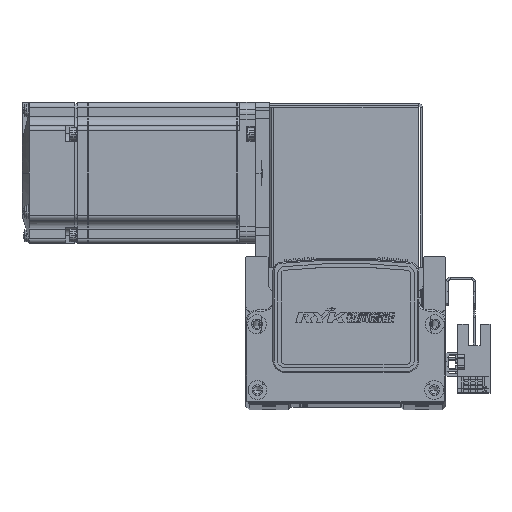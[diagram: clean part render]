
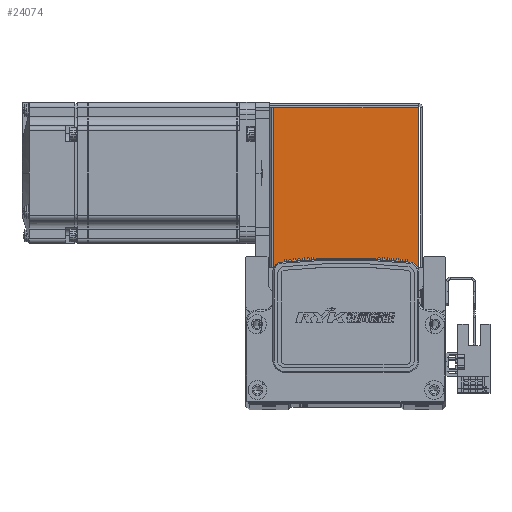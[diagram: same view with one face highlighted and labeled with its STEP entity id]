
A CAD part, top view. The second image highlights one B-rep face of the part: STEP entity #24074.
In plain terms, the highlighted planar face has unit normal (0, 0, 1).
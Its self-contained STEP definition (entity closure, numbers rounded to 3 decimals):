
#15799 = VERTEX_POINT ( 'NONE', #44155 ) ;
#15801 = VERTEX_POINT ( 'NONE', #44128 ) ;
#15818 = VERTEX_POINT ( 'NONE', #44192 ) ;
#15821 = VERTEX_POINT ( 'NONE', #44193 ) ;
#17533 = EDGE_LOOP ( 'NONE', ( #53516, #53476, #53494, #53580 ) ) ;
#24074 = ADVANCED_FACE ( 'NONE', ( #55981 ), #54563, .F. ) ;
#24723 = EDGE_CURVE ( 'NONE', #15799, #15821, #63656, .T. ) ;
#24739 = EDGE_CURVE ( 'NONE', #15818, #15801, #63660, .T. ) ;
#24755 = EDGE_CURVE ( 'NONE', #15818, #15799, #63753, .T. ) ;
#24759 = EDGE_CURVE ( 'NONE', #15801, #15821, #63796, .T. ) ;
#35550 = CARTESIAN_POINT ( 'NONE',  ( -30.793, 0., 35. ) ) ;
#35553 = DIRECTION ( 'NONE',  ( 0., 1., 0. ) ) ;
#35562 = DIRECTION ( 'NONE',  ( 0., 1., 0. ) ) ;
#35568 = CARTESIAN_POINT ( 'NONE',  ( 30.763, 0.737, 35. ) ) ;
#35730 = CARTESIAN_POINT ( 'NONE',  ( -32.5, 0.737, 35. ) ) ;
#35796 = CARTESIAN_POINT ( 'NONE',  ( 0., 68.5, 35. ) ) ;
#35834 = DIRECTION ( 'NONE',  ( -1., 0., 0. ) ) ;
#35846 = DIRECTION ( 'NONE',  ( -1., 0., 0. ) ) ;
#44128 = CARTESIAN_POINT ( 'NONE',  ( 30.763, 68.5, 35. ) ) ;
#44155 = CARTESIAN_POINT ( 'NONE',  ( -30.793, 0.737, 35. ) ) ;
#44192 = CARTESIAN_POINT ( 'NONE',  ( 30.763, 0.737, 35. ) ) ;
#44193 = CARTESIAN_POINT ( 'NONE',  ( -30.793, 68.5, 35. ) ) ;
#50301 = AXIS2_PLACEMENT_3D ( 'NONE', #54594, #54577, #54602 ) ;
#53476 = ORIENTED_EDGE ( 'NONE', *, *, #24759, .T. ) ;
#53494 = ORIENTED_EDGE ( 'NONE', *, *, #24723, .F. ) ;
#53516 = ORIENTED_EDGE ( 'NONE', *, *, #24739, .T. ) ;
#53580 = ORIENTED_EDGE ( 'NONE', *, *, #24755, .F. ) ;
#54563 = PLANE ( 'NONE',  #50301 ) ;
#54577 = DIRECTION ( 'NONE',  ( 0., 0., -1. ) ) ;
#54594 = CARTESIAN_POINT ( 'NONE',  ( 0., 0., 35. ) ) ;
#54602 = DIRECTION ( 'NONE',  ( -1., 0., 0. ) ) ;
#55981 = FACE_OUTER_BOUND ( 'NONE', #17533, .T. ) ;
#63656 = LINE ( 'NONE', #35550, #63683 ) ;
#63660 = LINE ( 'NONE', #35568, #63711 ) ;
#63683 = VECTOR ( 'NONE', #35553, 1000. ) ;
#63711 = VECTOR ( 'NONE', #35562, 1000. ) ;
#63743 = VECTOR ( 'NONE', #35834, 1000. ) ;
#63753 = LINE ( 'NONE', #35730, #63769 ) ;
#63769 = VECTOR ( 'NONE', #35846, 1000. ) ;
#63796 = LINE ( 'NONE', #35796, #63743 ) ;
